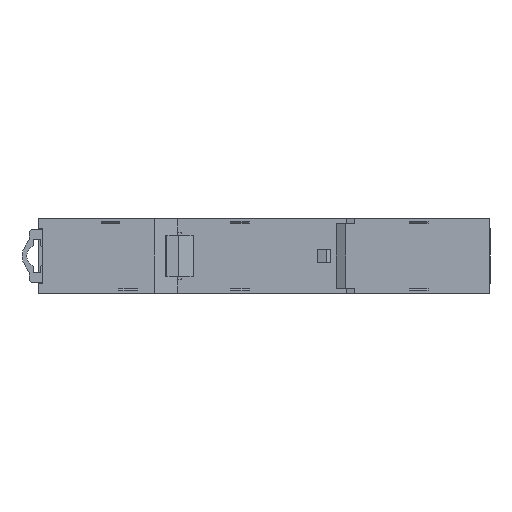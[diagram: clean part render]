
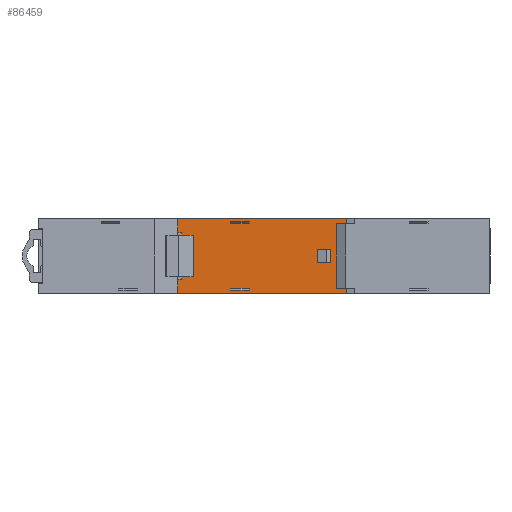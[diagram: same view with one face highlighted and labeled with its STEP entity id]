
A CAD part, front view. The second image highlights one B-rep face of the part: STEP entity #86459.
In plain terms, the highlighted planar face has unit normal (0, -1, 0).
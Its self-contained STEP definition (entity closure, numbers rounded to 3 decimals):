
#15319=ORIENTED_EDGE('',*,*,#31467,.T.);
#15320=ORIENTED_EDGE('',*,*,#31468,.T.);
#15321=ORIENTED_EDGE('',*,*,#31469,.T.);
#15322=ORIENTED_EDGE('',*,*,#31470,.F.);
#15323=ORIENTED_EDGE('',*,*,#31471,.T.);
#15324=ORIENTED_EDGE('',*,*,#31472,.T.);
#15325=ORIENTED_EDGE('',*,*,#31473,.T.);
#15326=ORIENTED_EDGE('',*,*,#31474,.T.);
#15327=ORIENTED_EDGE('',*,*,#31475,.F.);
#15328=ORIENTED_EDGE('',*,*,#31476,.T.);
#15329=ORIENTED_EDGE('',*,*,#31477,.T.);
#15330=ORIENTED_EDGE('',*,*,#31478,.T.);
#15331=ORIENTED_EDGE('',*,*,#31479,.T.);
#15332=ORIENTED_EDGE('',*,*,#31480,.T.);
#15333=ORIENTED_EDGE('',*,*,#31481,.T.);
#15334=ORIENTED_EDGE('',*,*,#31482,.T.);
#15335=ORIENTED_EDGE('',*,*,#31483,.T.);
#15336=ORIENTED_EDGE('',*,*,#31484,.T.);
#15337=ORIENTED_EDGE('',*,*,#31485,.T.);
#15338=ORIENTED_EDGE('',*,*,#31486,.F.);
#15339=ORIENTED_EDGE('',*,*,#31487,.T.);
#15340=ORIENTED_EDGE('',*,*,#31488,.F.);
#15341=ORIENTED_EDGE('',*,*,#31489,.T.);
#15342=ORIENTED_EDGE('',*,*,#31490,.T.);
#15343=ORIENTED_EDGE('',*,*,#31491,.T.);
#15344=ORIENTED_EDGE('',*,*,#31492,.F.);
#15345=ORIENTED_EDGE('',*,*,#31493,.F.);
#15346=ORIENTED_EDGE('',*,*,#31494,.F.);
#31467=EDGE_CURVE('',#46921,#46922,#60026,.T.);
#31468=EDGE_CURVE('',#46922,#46923,#60027,.T.);
#31469=EDGE_CURVE('',#46923,#46924,#60028,.T.);
#31470=EDGE_CURVE('',#46921,#46924,#60029,.T.);
#31471=EDGE_CURVE('',#46925,#46926,#60030,.T.);
#31472=EDGE_CURVE('',#46926,#46927,#60031,.T.);
#31473=EDGE_CURVE('',#46927,#46928,#60032,.T.);
#31474=EDGE_CURVE('',#46928,#46925,#60033,.T.);
#31475=EDGE_CURVE('',#46929,#46930,#60034,.T.);
#31476=EDGE_CURVE('',#46929,#46931,#60035,.T.);
#31477=EDGE_CURVE('',#46931,#46932,#60036,.T.);
#31478=EDGE_CURVE('',#46932,#46930,#60037,.T.);
#31479=EDGE_CURVE('',#46933,#46934,#60038,.T.);
#31480=EDGE_CURVE('',#46934,#46935,#60039,.T.);
#31481=EDGE_CURVE('',#46935,#46936,#60040,.T.);
#31482=EDGE_CURVE('',#46936,#46937,#60041,.T.);
#31483=EDGE_CURVE('',#46937,#46938,#60042,.T.);
#31484=EDGE_CURVE('',#46938,#46939,#60043,.T.);
#31485=EDGE_CURVE('',#46939,#46940,#60044,.T.);
#31486=EDGE_CURVE('',#46941,#46940,#60045,.T.);
#31487=EDGE_CURVE('',#46941,#46942,#60046,.T.);
#31488=EDGE_CURVE('',#46943,#46942,#60047,.T.);
#31489=EDGE_CURVE('',#46943,#46944,#60048,.T.);
#31490=EDGE_CURVE('',#46944,#46945,#60049,.T.);
#31491=EDGE_CURVE('',#46945,#46946,#60050,.T.);
#31492=EDGE_CURVE('',#46947,#46946,#60051,.T.);
#31493=EDGE_CURVE('',#46948,#46947,#60052,.T.);
#31494=EDGE_CURVE('',#46933,#46948,#60053,.T.);
#46921=VERTEX_POINT('',#167931);
#46922=VERTEX_POINT('',#167932);
#46923=VERTEX_POINT('',#167934);
#46924=VERTEX_POINT('',#167936);
#46925=VERTEX_POINT('',#167939);
#46926=VERTEX_POINT('',#167940);
#46927=VERTEX_POINT('',#167942);
#46928=VERTEX_POINT('',#167944);
#46929=VERTEX_POINT('',#167947);
#46930=VERTEX_POINT('',#167948);
#46931=VERTEX_POINT('',#167950);
#46932=VERTEX_POINT('',#167952);
#46933=VERTEX_POINT('',#167955);
#46934=VERTEX_POINT('',#167956);
#46935=VERTEX_POINT('',#167958);
#46936=VERTEX_POINT('',#167960);
#46937=VERTEX_POINT('',#167962);
#46938=VERTEX_POINT('',#167964);
#46939=VERTEX_POINT('',#167966);
#46940=VERTEX_POINT('',#167968);
#46941=VERTEX_POINT('',#167970);
#46942=VERTEX_POINT('',#167972);
#46943=VERTEX_POINT('',#167974);
#46944=VERTEX_POINT('',#167976);
#46945=VERTEX_POINT('',#167978);
#46946=VERTEX_POINT('',#167980);
#46947=VERTEX_POINT('',#167982);
#46948=VERTEX_POINT('',#167984);
#60026=LINE('',#167930,#72762);
#60027=LINE('',#167933,#72763);
#60028=LINE('',#167935,#72764);
#60029=LINE('',#167937,#72765);
#60030=LINE('',#167938,#72766);
#60031=LINE('',#167941,#72767);
#60032=LINE('',#167943,#72768);
#60033=LINE('',#167945,#72769);
#60034=LINE('',#167946,#72770);
#60035=LINE('',#167949,#72771);
#60036=LINE('',#167951,#72772);
#60037=LINE('',#167953,#72773);
#60038=LINE('',#167954,#72774);
#60039=LINE('',#167957,#72775);
#60040=LINE('',#167959,#72776);
#60041=LINE('',#167961,#72777);
#60042=LINE('',#167963,#72778);
#60043=LINE('',#167965,#72779);
#60044=LINE('',#167967,#72780);
#60045=LINE('',#167969,#72781);
#60046=LINE('',#167971,#72782);
#60047=LINE('',#167973,#72783);
#60048=LINE('',#167975,#72784);
#60049=LINE('',#167977,#72785);
#60050=LINE('',#167979,#72786);
#60051=LINE('',#167981,#72787);
#60052=LINE('',#167983,#72788);
#60053=LINE('',#167985,#72789);
#72762=VECTOR('',#134761,1000.);
#72763=VECTOR('',#134762,1000.);
#72764=VECTOR('',#134763,1000.);
#72765=VECTOR('',#134764,1000.);
#72766=VECTOR('',#134765,1000.);
#72767=VECTOR('',#134766,1000.);
#72768=VECTOR('',#134767,1000.);
#72769=VECTOR('',#134768,1000.);
#72770=VECTOR('',#134769,1000.);
#72771=VECTOR('',#134770,1000.);
#72772=VECTOR('',#134771,1000.);
#72773=VECTOR('',#134772,1000.);
#72774=VECTOR('',#134773,1000.);
#72775=VECTOR('',#134774,1000.);
#72776=VECTOR('',#134775,1000.);
#72777=VECTOR('',#134776,1000.);
#72778=VECTOR('',#134777,1000.);
#72779=VECTOR('',#134778,1000.);
#72780=VECTOR('',#134779,1000.);
#72781=VECTOR('',#134780,1000.);
#72782=VECTOR('',#134781,1000.);
#72783=VECTOR('',#134782,1000.);
#72784=VECTOR('',#134783,1000.);
#72785=VECTOR('',#134784,1000.);
#72786=VECTOR('',#134785,1000.);
#72787=VECTOR('',#134786,1000.);
#72788=VECTOR('',#134787,1000.);
#72789=VECTOR('',#134788,1000.);
#78095=EDGE_LOOP('',(#15319,#15320,#15321,#15322));
#78096=EDGE_LOOP('',(#15323,#15324,#15325,#15326));
#78097=EDGE_LOOP('',(#15327,#15328,#15329,#15330));
#78098=EDGE_LOOP('',(#15331,#15332,#15333,#15334,#15335,#15336,#15337,#15338,
#15339,#15340,#15341,#15342,#15343,#15344,#15345,#15346));
#81246=FACE_BOUND('',#78095,.T.);
#81247=FACE_BOUND('',#78096,.T.);
#81248=FACE_BOUND('',#78097,.T.);
#81249=FACE_BOUND('',#78098,.T.);
#83702=PLANE('',#115539);
#86459=ADVANCED_FACE('',(#81246,#81247,#81248,#81249),#83702,.F.);
#115539=AXIS2_PLACEMENT_3D('',#167929,#134759,#134760);
#134759=DIRECTION('',(0.,1.,0.));
#134760=DIRECTION('',(-1.,0.,0.));
#134761=DIRECTION('',(0.,0.,-1.));
#134762=DIRECTION('',(-1.,0.,0.));
#134763=DIRECTION('',(0.,0.,1.));
#134764=DIRECTION('',(-1.,0.,0.));
#134765=DIRECTION('',(-1.,0.,0.));
#134766=DIRECTION('',(0.,0.,1.));
#134767=DIRECTION('',(1.,0.,0.));
#134768=DIRECTION('',(0.,0.,-1.));
#134769=DIRECTION('',(1.,0.,0.));
#134770=DIRECTION('',(0.,0.,1.));
#134771=DIRECTION('',(1.,0.,0.));
#134772=DIRECTION('',(0.,0.,-1.));
#134773=DIRECTION('',(1.,0.,0.));
#134774=DIRECTION('',(0.,0.,-1.));
#134775=DIRECTION('',(1.,0.,0.));
#134776=DIRECTION('',(0.,0.,-1.));
#134777=DIRECTION('',(-1.,0.,0.));
#134778=DIRECTION('',(0.,0.,-1.));
#134779=DIRECTION('',(-1.,0.,0.));
#134780=DIRECTION('',(0.,0.,1.));
#134781=DIRECTION('',(1.,0.,0.));
#134782=DIRECTION('',(0.,0.,-1.));
#134783=DIRECTION('',(-1.,0.,0.));
#134784=DIRECTION('',(0.,0.,1.));
#134785=DIRECTION('',(1.,0.,0.));
#134786=DIRECTION('',(0.,0.,-1.));
#134787=DIRECTION('',(1.,0.,0.));
#134788=DIRECTION('',(0.,0.,1.));
#167929=CARTESIAN_POINT('',(65.,9.6,-7.9));
#167930=CARTESIAN_POINT('',(44.65,9.6,7.448));
#167931=CARTESIAN_POINT('',(44.65,9.6,-6.8));
#167932=CARTESIAN_POINT('',(44.65,9.6,-7.2));
#167933=CARTESIAN_POINT('',(53.825,9.6,-7.2));
#167934=CARTESIAN_POINT('',(40.65,9.6,-7.2));
#167935=CARTESIAN_POINT('',(40.65,9.6,7.448));
#167936=CARTESIAN_POINT('',(40.65,9.6,-6.8));
#167937=CARTESIAN_POINT('',(29.5,9.6,-6.8));
#167938=CARTESIAN_POINT('',(62.759,9.6,-1.4));
#167939=CARTESIAN_POINT('',(61.866,9.6,-1.4));
#167940=CARTESIAN_POINT('',(59.134,9.6,-1.4));
#167941=CARTESIAN_POINT('',(59.134,9.6,-3.95));
#167942=CARTESIAN_POINT('',(59.134,9.6,1.4));
#167943=CARTESIAN_POINT('',(62.759,9.6,1.4));
#167944=CARTESIAN_POINT('',(61.866,9.6,1.4));
#167945=CARTESIAN_POINT('',(61.866,9.6,-3.95));
#167946=CARTESIAN_POINT('',(29.5,9.6,6.8));
#167947=CARTESIAN_POINT('',(40.65,9.6,6.8));
#167948=CARTESIAN_POINT('',(44.65,9.6,6.8));
#167949=CARTESIAN_POINT('',(40.65,9.6,7.448));
#167950=CARTESIAN_POINT('',(40.65,9.6,7.2));
#167951=CARTESIAN_POINT('',(53.825,9.6,7.2));
#167952=CARTESIAN_POINT('',(44.65,9.6,7.2));
#167953=CARTESIAN_POINT('',(44.65,9.6,7.448));
#167954=CARTESIAN_POINT('',(47.66,9.6,4.95));
#167955=CARTESIAN_POINT('',(29.5,9.6,4.95));
#167956=CARTESIAN_POINT('',(30.32,9.6,4.95));
#167957=CARTESIAN_POINT('',(30.32,9.6,-1.775));
#167958=CARTESIAN_POINT('',(30.32,9.6,4.35));
#167959=CARTESIAN_POINT('',(48.875,9.6,4.35));
#167960=CARTESIAN_POINT('',(30.75,9.6,4.35));
#167961=CARTESIAN_POINT('',(30.75,9.6,-6.125));
#167962=CARTESIAN_POINT('',(30.75,9.6,-4.35));
#167963=CARTESIAN_POINT('',(45.31,9.6,-4.35));
#167964=CARTESIAN_POINT('',(30.32,9.6,-4.35));
#167965=CARTESIAN_POINT('',(30.32,9.6,-6.425));
#167966=CARTESIAN_POINT('',(30.32,9.6,-4.95));
#167967=CARTESIAN_POINT('',(46.071,9.6,-4.95));
#167968=CARTESIAN_POINT('',(29.5,9.6,-4.95));
#167969=CARTESIAN_POINT('',(29.5,9.6,-7.9));
#167970=CARTESIAN_POINT('',(29.5,9.6,-7.9));
#167971=CARTESIAN_POINT('',(29.5,9.6,-7.9));
#167972=CARTESIAN_POINT('',(65.1,9.6,-7.9));
#167973=CARTESIAN_POINT('',(65.1,9.6,7.9));
#167974=CARTESIAN_POINT('',(65.1,9.6,-6.8));
#167975=CARTESIAN_POINT('',(53.075,9.6,-6.8));
#167976=CARTESIAN_POINT('',(65.,9.6,-6.8));
#167977=CARTESIAN_POINT('',(65.,9.6,-3.95));
#167978=CARTESIAN_POINT('',(65.,9.6,6.8));
#167979=CARTESIAN_POINT('',(52.4,9.6,6.8));
#167980=CARTESIAN_POINT('',(65.1,9.6,6.8));
#167981=CARTESIAN_POINT('',(65.1,9.6,7.9));
#167982=CARTESIAN_POINT('',(65.1,9.6,7.9));
#167983=CARTESIAN_POINT('',(29.5,9.6,7.9));
#167984=CARTESIAN_POINT('',(29.5,9.6,7.9));
#167985=CARTESIAN_POINT('',(29.5,9.6,-7.9));
